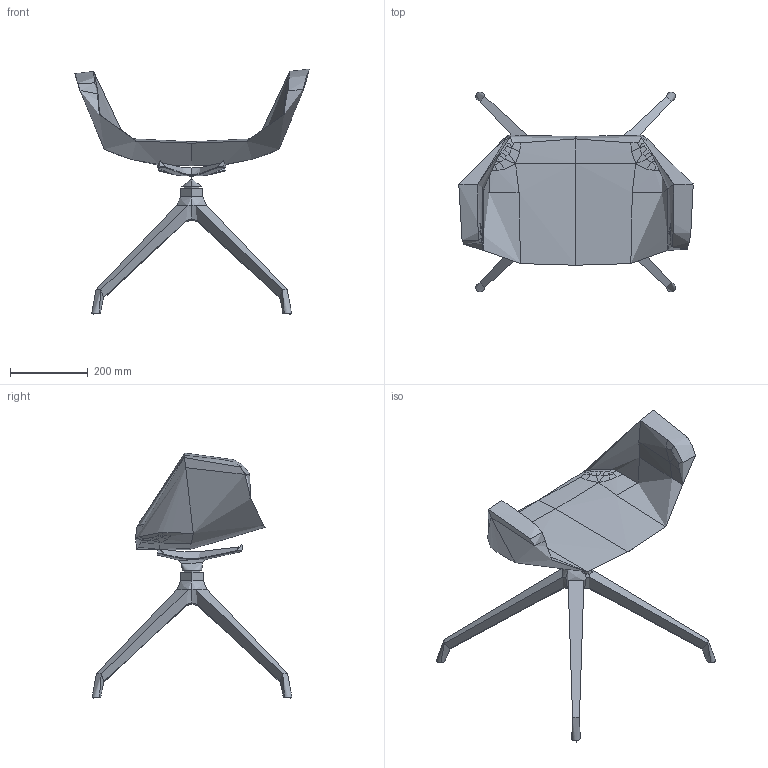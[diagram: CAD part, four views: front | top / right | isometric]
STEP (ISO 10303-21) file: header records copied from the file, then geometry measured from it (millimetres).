
FILE_DESCRIPTION(/* description */ (''),/* implementation_level */ '2;1');
FILE_NAME(/* name */ 'RIVA RI-02,F70-N6',/* time_stamp */ '2024-12-20T19:17:30+01:00',/* author */ (''),/* organization */ (''),/* preprocessor_version */ 'ST-DEVELOPER v16.5',/* originating_system */ 'Rhino 7.37',/* authorisation */ '');
FILE_SCHEMA (('CONFIG_CONTROL_DESIGN'));
Length unit declared in the file: millimetre
Products named in the file (1): Document
Bounding box: 601.93 x 512.72 x 631.66 mm (x, y, z)
Surface area: 1274138.5 mm2 (no closed solid volume)
Topology: 0 solids, 8 shells, 234 faces, 583 edges, 349 vertices
Faces by surface type: bspline 186, plane 26, cylinder 22
Full cylindrical faces by diameter (mm): 22 x4
Entity records: 31612 total; most frequent: CARTESIAN_POINT 28050, ORIENTED_EDGE 1114, EDGE_CURVE 574, B_SPLINE_CURVE_WITH_KNOTS 436, VERTEX_POINT 345, ADVANCED_FACE 234, FACE_OUTER_BOUND 234, EDGE_LOOP 234
